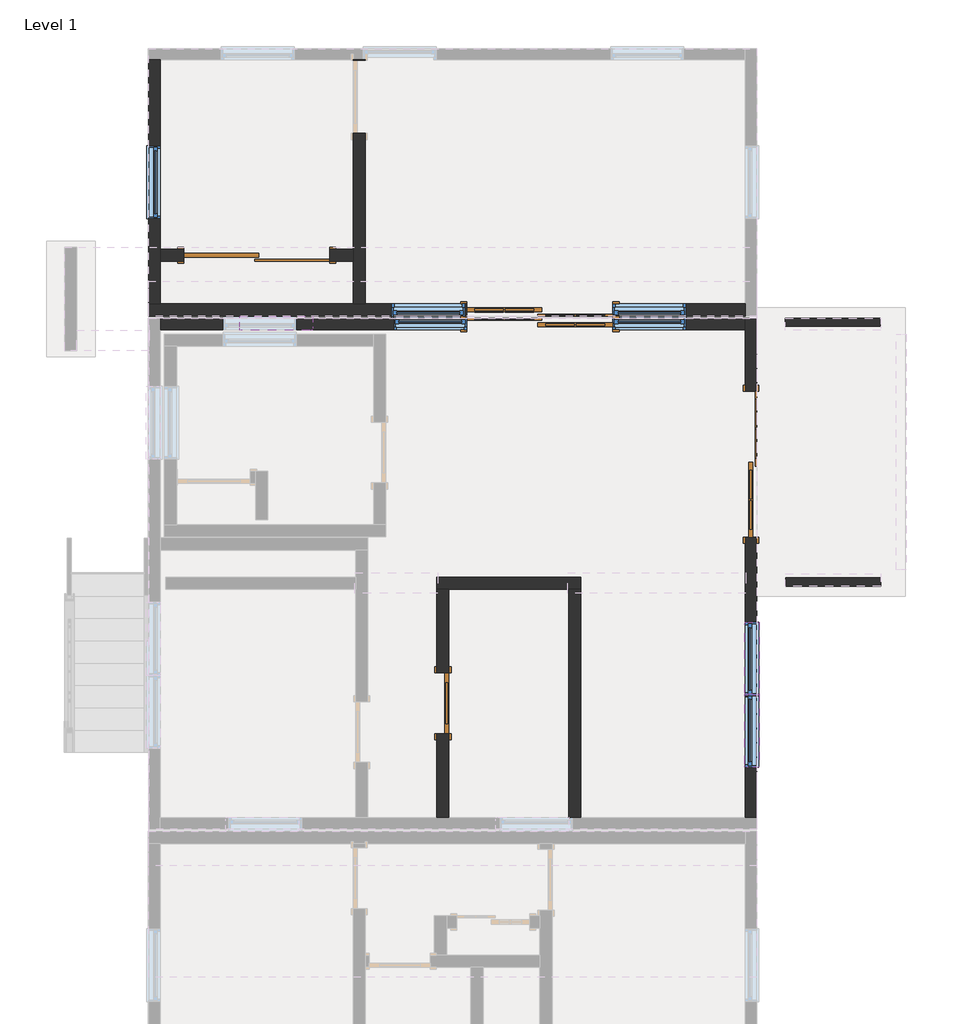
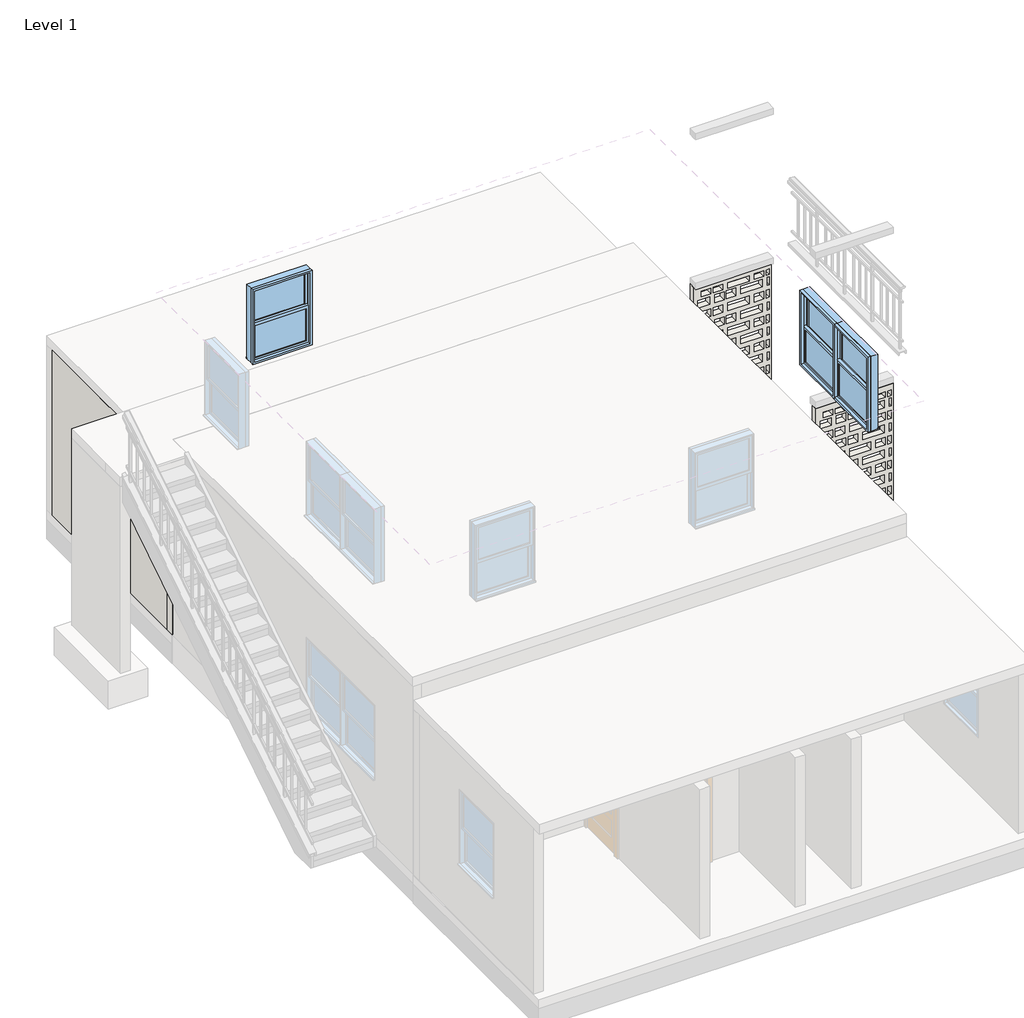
# One storey, part 2 of 3: 11 walls, 10 windows, 5 doors.
"""IFC4 building model written with IfcOpenShell, lengths in millimetres."""

from ifc_helpers import new_model, si_unit, frame, origin, place, context, project, spatial, polyline, outline, extrude, faceted_brep, transform, mapped, element, save
from components import door_de661ade, door_789d9d7f, door_37dff43f, door_f6c94119, window_f4e95f5c, window_0ee86fce, window_d6fe7540, window_2fa36e41, window_8e2a3c93

model = new_model("IFC4")

# Units and contexts
model_context = context("Model", 3, world=origin())
ifc_project = project(units=[si_unit("LENGTHUNIT", "METRE", prefix="MILLI")], contexts=[model_context])

# Site, building, storey
site = spatial("IfcSite", under=ifc_project)
building = spatial("IfcBuilding", under=site)
storey = spatial("IfcBuildingStorey", under=building, Name="Level 1", Elevation=0.0)

# Doors
placement = place(None, origin())
door_shape = door_de661ade(model_context)
element("IfcDoor", 1, ObjectType="Single-Panel 1 : 30\" x 80\"", at=placement, inside=storey, context=model_context, shape_type="MappedRepresentation", body=[
    mapped(door_shape, transform((-7841.5990766, -23581.2138369, -101.6), x_axis=(0.0, -1.0, 0.0), y_axis=(1.0, 0.0, 0.0), z_axis=(0.0, 0.0, 1.0))),
])
door_2_shape = door_789d9d7f(model_context)
element("IfcDoor", 2, ObjectType="Sliding-2 Panel 2 : 72\" x 78\"", at=placement, inside=storey, context=model_context, shape_type="MappedRepresentation", body=[
    mapped(door_2_shape, transform((-10170.7790766, -17845.6431336, -101.6), x_axis=(-1.0, 0.0, 0.0), y_axis=(0.0, -1.0, 0.0), z_axis=(0.0, 0.0, 1.0))),
])
door_3_shape = door_37dff43f(model_context)
element("IfcDoor", 3, ObjectType="Sliding-2 Panel 2 : 72\" x 84\"", at=placement, inside=storey, context=model_context, shape_type="MappedRepresentation", body=[
    mapped(door_3_shape, transform((-4112.8790766, -20588.7763369, -177.8), x_axis=(0.0, -1.0, 0.0), y_axis=(1.0, 0.0, 0.0), z_axis=(0.0, 0.0, 1.0))),
])
element("IfcDoor", 4, ObjectType="Sliding-2 Panel 2 : 72\" x 84\"", at=placement, inside=storey, context=model_context, shape_type="MappedRepresentation", body=[
    mapped(door_3_shape, transform((-6627.4790766, -18963.1763369, -127.0), x_axis=(1.0, 0.0, 0.0), y_axis=(0.0, 1.0, 0.0), z_axis=(0.0, 0.0, 1.0))),
])
door_4_shape = door_f6c94119(model_context)
element("IfcDoor", 5, ObjectType="Sliding-2 Panel 2 : 72\" x 84\"", at=placement, inside=storey, context=model_context, shape_type="MappedRepresentation", body=[
    mapped(door_4_shape, transform((-6627.4790766, -18531.4431336, -127.0), x_axis=(-1.0, 0.0, 0.0), y_axis=(0.0, -1.0, 0.0), z_axis=(0.0, 0.0, 1.0))),
])

# Walls
element("IfcWall", 6, ObjectType="CWXX - 6in CIP Conc", at=placement, inside=storey, context=model_context, shape_type="SweptSolid", body=[
    extrude(outline(polyline([(-6114.399102, -22154.0513369), (-6114.399102, -25013.1388369), (-6266.799102, -25013.1388369), (-6266.799102, -22154.0513369), (-6114.399102, -22154.0513369)])), frame((0.0, 0.0, -101.6), z_axis=(0.0, 0.0, 1.0), x_axis=(1.0, 0.0, 0.0)), (0.0, 0.0, 1.0), 2438.4),
])
element("IfcWall", 7, ObjectType="CWXX - 6in CMU", at=placement, inside=storey, context=model_context, shape_type="Brep", body=[
    faceted_brep([(-7917.7990766, -22154.0513369, -101.6), (-7765.3990766, -22154.0513369, -101.6), (-6266.799102, -22154.0513369, -101.6), (-6114.399102, -22154.0513369, -101.6), (-6114.399102, -22154.0513369, 2336.8), (-6114.399102, -22154.0513369, 2692.4), (-7917.7990766, -22154.0513369, 2692.4), (-7917.7990766, -22154.0513369, 2336.8), (-7917.7990766, -22001.6513369, -101.6), (-7917.7990766, -22001.6513369, 2692.4), (-6114.399102, -22001.6513369, 2692.4), (-6114.399102, -22001.6513369, -101.6)], [[[0, 1, 2, 3, 4, 5, 6, 7]], [[8, 9, 10, 11]], [[3, 2, 1, 0, 8, 11]], [[6, 5, 10, 9]], [[0, 7, 6, 9, 8]], [[5, 4, 3, 11, 10]]]),
])
element("IfcWall", 8, ObjectType="CWXX - 6in CIP Conc", at=placement, inside=storey, context=model_context, shape_type="SweptSolid", body=[
    extrude(outline(polyline([(-23962.2138369, 1930.4), (-23962.2138369, -101.6), (-25013.1388369, -101.6), (-25013.1388369, 2336.8), (-22154.0513369, 2336.8), (-22154.0513369, -101.6), (-23200.2138369, -101.6), (-23200.2138369, 1930.4), (-23962.2138369, 1930.4)])), frame((-7917.7990766, 0.0, 0.0), z_axis=(1.0, 0.0, 0.0), x_axis=(0.0, 1.0, 0.0)), (0.0, 0.0, 1.0), 152.4),
])
element("IfcWall", 9, ObjectType="CWXX - 6in CIP Conc", at=placement, inside=storey, context=model_context, shape_type="Brep", body=[
    faceted_brep([(-8964.2790766, -18582.2431336, 2336.8), (-8964.2790766, -18048.8431336, 2336.8), (-8964.2790766, -17896.4431336, 2336.8), (-8964.2790766, -15529.4806336, 2336.8), (-8964.2790766, -15529.4806336, -101.6), (-8964.2790766, -15534.2431336, -101.6), (-8964.2790766, -15534.2431336, 1930.4), (-8964.2790766, -16448.6431336, 1930.4), (-8964.2790766, -16448.6431336, -101.6), (-8964.2790766, -17896.4431336, -101.6), (-8964.2790766, -18048.8431336, -101.6), (-8964.2790766, -18582.2431336, -101.6), (-8811.8790766, -15529.4806336, 2336.8), (-8811.8790766, -18582.2431336, 2336.8), (-8811.8790766, -18582.2431336, -101.6), (-8811.8790766, -16448.6431336, -101.6), (-8811.8790766, -16448.6431336, 1930.4), (-8811.8790766, -15534.2431336, 1930.4), (-8811.8790766, -15534.2431336, -101.6), (-8811.8790766, -15529.4806336, -101.6), (-8837.2790766, -15529.4806336, -101.6)], [[[0, 1, 2, 3, 4, 5, 6, 7, 8, 9, 10, 11]], [[12, 13, 14, 15, 16, 17, 18, 19]], [[14, 11, 10, 9, 8, 15]], [[4, 20, 19, 18, 5]], [[3, 2, 1, 0, 13, 12]], [[17, 6, 5, 18]], [[6, 17, 16, 7]], [[7, 16, 15, 8]], [[4, 3, 12, 19, 20]], [[11, 14, 13, 0]]]),
])
element("IfcWall", 10, ObjectType="CWXX - 6in CIP Conc", at=placement, inside=storey, context=model_context, shape_type="SweptSolid", body=[
    extrude(outline(polyline([(-101.6, -11382.0415766), (-101.6, -11085.1790766), (2032.0, -11085.1790766), (2032.0, -9256.3790766), (-101.6, -9256.3790766), (-101.6, -8964.2790766), (2336.8, -8964.2790766), (2336.8, -11382.0415766), (-101.6, -11382.0415766)])), frame((0.0, -18048.8431336, 0.0), z_axis=(0.0, 1.0, 0.0), x_axis=(0.0, 0.0, 1.0)), (0.0, 0.0, 1.0), 152.4),
])
element("IfcWall", 11, ObjectType="CWXX - 6in CMU", at=placement, inside=storey, context=model_context, shape_type="Brep", body=[
    faceted_brep([(-11524.9165766, -18582.2431336, 2590.8), (-11382.0415766, -18582.2431336, 2590.8), (-4057.3165766, -18582.2431336, 2590.8), (-4057.3165766, -18582.2431336, -101.6), (-4798.6790766, -18582.2431336, -101.6), (-4798.6790766, -18582.2431336, 2086.6272413), (-5713.0790766, -18582.2431336, 2086.6272413), (-5713.0790766, -18582.2431336, 2082.8), (-7541.8790766, -18582.2431336, 2082.8), (-7541.8790766, -18582.2431336, -101.6), (-7567.2790766, -18582.2431336, -101.6), (-7567.2790766, -18582.2431336, 2079.3110351), (-8481.6790766, -18582.2431336, 2079.3110351), (-8481.6790766, -18582.2431336, -101.6), (-8811.8790766, -18582.2431336, -101.6), (-8964.2790766, -18582.2431336, -101.6), (-11382.0415766, -18582.2431336, -101.6), (-11524.9165766, -18582.2431336, -101.6), (-4057.3165766, -18734.6431336, 2590.8), (-11524.9165766, -18734.6431336, 2590.8), (-11524.9165766, -18734.6431336, -101.6), (-8481.6790766, -18734.6431336, -101.6), (-8481.6790766, -18734.6431336, 2079.3110351), (-7567.2790766, -18734.6431336, 2079.3110351), (-7567.2790766, -18734.6431336, -101.6), (-7541.8790766, -18734.6431336, -101.6), (-7541.8790766, -18734.6431336, 2082.8), (-5713.0790766, -18734.6431336, 2082.8), (-5713.0790766, -18734.6431336, 2086.6272413), (-4798.6790766, -18734.6431336, 2086.6272413), (-4798.6790766, -18734.6431336, -101.6), (-4057.3165766, -18734.6431336, -101.6)], [[[0, 1, 2, 3, 4, 5, 6, 7, 8, 9, 10, 11, 12, 13, 14, 15, 16, 17]], [[18, 19, 20, 21, 22, 23, 24, 25, 26, 27, 28, 29, 30, 31]], [[20, 17, 16, 15, 14, 13, 21]], [[3, 31, 30, 4]], [[9, 25, 24, 10]], [[2, 1, 0, 19, 18]], [[0, 17, 20, 19]], [[31, 3, 2, 18]], [[8, 26, 25, 9]], [[26, 8, 7, 27]], [[6, 28, 27, 7]], [[29, 5, 4, 30]], [[28, 6, 5, 29]], [[12, 22, 21, 13]], [[23, 11, 10, 24]], [[22, 12, 11, 23]]]),
])
element("IfcWall", 12, ObjectType="4\" CMU", at=placement, inside=storey, context=model_context, shape_type="SweptSolid", body=[
    extrude(outline(polyline([(-101.0661623, -3554.0790766), (-101.0661623, -2364.6816639), (2844.8, -2364.6816639), (2844.8, -3554.0790766), (-101.0661623, -3554.0790766)]), holes=[polyline([(2489.2, -2423.7592328), (2616.2, -2423.7592328), (2616.2, -2392.0092328), (2489.2, -2392.0092328), (2489.2, -2423.7592328)]), polyline([(2489.2, -2499.9592328), (2489.2, -2830.1592328), (2616.2, -2830.1592328), (2616.2, -2499.9592328), (2489.2, -2499.9592328)]), polyline([(2489.2, -2906.3592328), (2489.2, -3052.4092328), (2616.2, -3052.4092328), (2616.2, -2906.3592328), (2489.2, -2906.3592328)]), polyline([(2616.2, -3236.5592328), (2616.2, -3090.5092328), (2489.2, -3090.5092328), (2489.2, -3236.5592328), (2616.2, -3236.5592328)]), polyline([(2489.2, -3312.7592328), (2489.2, -3498.8632589), (2616.2, -3498.8632589), (2616.2, -3312.7592328), (2489.2, -3312.7592328)]), polyline([(2286.0, -2442.8092328), (2413.0, -2442.8092328), (2413.0, -2392.0092328), (2286.0, -2392.0092328), (2286.0, -2442.8092328)]), polyline([(2286.0, -2480.9092328), (2286.0, -2626.9592328), (2413.0, -2626.9592328), (2413.0, -2480.9092328), (2286.0, -2480.9092328)]), polyline([(2413.0, -2703.1592328), (2286.0, -2703.1592328), (2286.0, -3033.3592328), (2413.0, -3033.3592328), (2413.0, -2703.1592328)]), polyline([(2286.0, -3109.5592328), (2286.0, -3255.6092328), (2413.0, -3255.6092328), (2413.0, -3109.5592328), (2286.0, -3109.5592328)]), polyline([(2286.0, -3293.7092328), (2286.0, -3439.7592328), (2413.0, -3439.7592328), (2413.0, -3293.7092328), (2286.0, -3293.7092328)]), polyline([(2082.8, -2423.7592328), (2209.8, -2423.7592328), (2209.8, -2392.0092328), (2082.8, -2392.0092328), (2082.8, -2423.7592328)]), polyline([(2082.8, -2499.9592328), (2082.8, -2830.1592328), (2209.8, -2830.1592328), (2209.8, -2499.9592328), (2082.8, -2499.9592328)]), polyline([(2082.8, -2906.3592328), (2082.8, -3052.4092328), (2209.8, -3052.4092328), (2209.8, -2906.3592328), (2082.8, -2906.3592328)]), polyline([(2209.8, -3236.5592328), (2209.8, -3090.5092328), (2082.8, -3090.5092328), (2082.8, -3236.5592328), (2209.8, -3236.5592328)]), polyline([(2082.8, -3312.7592328), (2082.8, -3498.8632589), (2209.8, -3498.8632589), (2209.8, -3312.7592328), (2082.8, -3312.7592328)]), polyline([(1879.6, -2442.8092328), (2006.6, -2442.8092328), (2006.6, -2392.0092328), (1879.6, -2392.0092328), (1879.6, -2442.8092328)]), polyline([(1879.6, -2480.9092328), (1879.6, -2626.9592328), (2006.6, -2626.9592328), (2006.6, -2480.9092328), (1879.6, -2480.9092328)]), polyline([(2006.6, -2703.1592328), (1879.6, -2703.1592328), (1879.6, -3033.3592328), (2006.6, -3033.3592328), (2006.6, -2703.1592328)]), polyline([(1879.6, -3109.5592328), (1879.6, -3255.6092328), (2006.6, -3255.6092328), (2006.6, -3109.5592328), (1879.6, -3109.5592328)]), polyline([(1879.6, -3293.7092328), (1879.6, -3439.7592328), (2006.6, -3439.7592328), (2006.6, -3293.7092328), (1879.6, -3293.7092328)]), polyline([(1676.4, -2423.7592328), (1803.4, -2423.7592328), (1803.4, -2392.0092328), (1676.4, -2392.0092328), (1676.4, -2423.7592328)]), polyline([(1676.4, -2499.9592328), (1676.4, -2830.1592328), (1803.4, -2830.1592328), (1803.4, -2499.9592328), (1676.4, -2499.9592328)]), polyline([(1676.4, -2906.3592328), (1676.4, -3052.4092328), (1803.4, -3052.4092328), (1803.4, -2906.3592328), (1676.4, -2906.3592328)]), polyline([(1803.4, -3236.5592328), (1803.4, -3090.5092328), (1676.4, -3090.5092328), (1676.4, -3236.5592328), (1803.4, -3236.5592328)]), polyline([(1676.4, -3312.7592328), (1676.4, -3498.8632589), (1803.4, -3498.8632589), (1803.4, -3312.7592328), (1676.4, -3312.7592328)]), polyline([(1473.2, -2442.8092328), (1600.2, -2442.8092328), (1600.2, -2392.0092328), (1473.2, -2392.0092328), (1473.2, -2442.8092328)]), polyline([(1473.2, -2480.9092328), (1473.2, -2626.9592328), (1600.2, -2626.9592328), (1600.2, -2480.9092328), (1473.2, -2480.9092328)]), polyline([(1600.2, -2703.1592328), (1473.2, -2703.1592328), (1473.2, -3033.3592328), (1600.2, -3033.3592328), (1600.2, -2703.1592328)]), polyline([(1473.2, -3109.5592328), (1473.2, -3255.6092328), (1600.2, -3255.6092328), (1600.2, -3109.5592328), (1473.2, -3109.5592328)]), polyline([(1473.2, -3293.7092328), (1473.2, -3439.7592328), (1600.2, -3439.7592328), (1600.2, -3293.7092328), (1473.2, -3293.7092328)]), polyline([(1270.0, -2423.7592328), (1397.0, -2423.7592328), (1397.0, -2392.0092328), (1270.0, -2392.0092328), (1270.0, -2423.7592328)]), polyline([(1270.0, -2499.9592328), (1270.0, -2830.1592328), (1397.0, -2830.1592328), (1397.0, -2499.9592328), (1270.0, -2499.9592328)]), polyline([(1270.0, -2906.3592328), (1270.0, -3052.4092328), (1397.0, -3052.4092328), (1397.0, -2906.3592328), (1270.0, -2906.3592328)]), polyline([(1397.0, -3236.5592328), (1397.0, -3090.5092328), (1270.0, -3090.5092328), (1270.0, -3236.5592328), (1397.0, -3236.5592328)]), polyline([(1270.0, -3312.7592328), (1270.0, -3498.8632589), (1397.0, -3498.8632589), (1397.0, -3312.7592328), (1270.0, -3312.7592328)]), polyline([(1054.1, -2442.8092328), (1181.1, -2442.8092328), (1181.1, -2392.0092328), (1054.1, -2392.0092328), (1054.1, -2442.8092328)]), polyline([(1054.1, -2480.9092328), (1054.1, -2626.9592328), (1181.1, -2626.9592328), (1181.1, -2480.9092328), (1054.1, -2480.9092328)]), polyline([(1181.1, -2703.1592328), (1054.1, -2703.1592328), (1054.1, -3033.3592328), (1181.1, -3033.3592328), (1181.1, -2703.1592328)]), polyline([(1054.1, -3109.5592328), (1054.1, -3255.6092328), (1181.1, -3255.6092328), (1181.1, -3109.5592328), (1054.1, -3109.5592328)]), polyline([(1054.1, -3293.7092328), (1054.1, -3439.7592328), (1181.1, -3439.7592328), (1181.1, -3293.7092328), (1054.1, -3293.7092328)]), polyline([(850.9, -2423.7592328), (977.9, -2423.7592328), (977.9, -2392.0092328), (850.9, -2392.0092328), (850.9, -2423.7592328)]), polyline([(850.9, -2499.9592328), (850.9, -2830.1592328), (977.9, -2830.1592328), (977.9, -2499.9592328), (850.9, -2499.9592328)]), polyline([(850.9, -2906.3592328), (850.9, -3052.4092328), (977.9, -3052.4092328), (977.9, -2906.3592328), (850.9, -2906.3592328)]), polyline([(977.9, -3236.5592328), (977.9, -3090.5092328), (850.9, -3090.5092328), (850.9, -3236.5592328), (977.9, -3236.5592328)]), polyline([(850.9, -3312.7592328), (850.9, -3498.8632589), (977.9, -3498.8632589), (977.9, -3312.7592328), (850.9, -3312.7592328)]), polyline([(647.7, -2442.8092328), (774.7, -2442.8092328), (774.7, -2392.0092328), (647.7, -2392.0092328), (647.7, -2442.8092328)]), polyline([(647.7, -2480.9092328), (647.7, -2626.9592328), (774.7, -2626.9592328), (774.7, -2480.9092328), (647.7, -2480.9092328)]), polyline([(774.7, -2703.1592328), (647.7, -2703.1592328), (647.7, -3033.3592328), (774.7, -3033.3592328), (774.7, -2703.1592328)]), polyline([(647.7, -3109.5592328), (647.7, -3255.6092328), (774.7, -3255.6092328), (774.7, -3109.5592328), (647.7, -3109.5592328)]), polyline([(647.7, -3293.7092328), (647.7, -3439.7592328), (774.7, -3439.7592328), (774.7, -3293.7092328), (647.7, -3293.7092328)]), polyline([(444.5, -2423.7592328), (571.5, -2423.7592328), (571.5, -2392.0092328), (444.5, -2392.0092328), (444.5, -2423.7592328)]), polyline([(444.5, -2499.9592328), (444.5, -2830.1592328), (571.5, -2830.1592328), (571.5, -2499.9592328), (444.5, -2499.9592328)]), polyline([(444.5, -2906.3592328), (444.5, -3052.4092328), (571.5, -3052.4092328), (571.5, -2906.3592328), (444.5, -2906.3592328)]), polyline([(571.5, -3236.5592328), (571.5, -3090.5092328), (444.5, -3090.5092328), (444.5, -3236.5592328), (571.5, -3236.5592328)]), polyline([(444.5, -3312.7592328), (444.5, -3498.8632589), (571.5, -3498.8632589), (571.5, -3312.7592328), (444.5, -3312.7592328)]), polyline([(241.3, -2442.8092328), (368.3, -2442.8092328), (368.3, -2392.0092328), (241.3, -2392.0092328), (241.3, -2442.8092328)]), polyline([(241.3, -2480.9092328), (241.3, -2626.9592328), (368.3, -2626.9592328), (368.3, -2480.9092328), (241.3, -2480.9092328)]), polyline([(368.3, -2703.1592328), (241.3, -2703.1592328), (241.3, -3033.3592328), (368.3, -3033.3592328), (368.3, -2703.1592328)]), polyline([(241.3, -3109.5592328), (241.3, -3255.6092328), (368.3, -3255.6092328), (368.3, -3109.5592328), (241.3, -3109.5592328)]), polyline([(241.3, -3293.7092328), (241.3, -3439.7592328), (368.3, -3439.7592328), (368.3, -3293.7092328), (241.3, -3293.7092328)]), polyline([(38.1, -2423.7592328), (165.1, -2423.7592328), (165.1, -2392.0092328), (38.1, -2392.0092328), (38.1, -2423.7592328)]), polyline([(38.1, -2499.9592328), (38.1, -2830.1592328), (165.1, -2830.1592328), (165.1, -2499.9592328), (38.1, -2499.9592328)]), polyline([(38.1, -2906.3592328), (38.1, -3052.4092328), (165.1, -3052.4092328), (165.1, -2906.3592328), (38.1, -2906.3592328)]), polyline([(165.1, -3236.5592328), (165.1, -3090.5092328), (38.1, -3090.5092328), (38.1, -3236.5592328), (165.1, -3236.5592328)]), polyline([(38.1, -3312.7592328), (38.1, -3498.8632589), (165.1, -3498.8632589), (165.1, -3312.7592328), (38.1, -3312.7592328)]), polyline([(-76.2, -2442.8092328), (-38.1, -2442.8092328), (-38.1, -2392.0092328), (-76.2, -2392.0092328), (-76.2, -2442.8092328)]), polyline([(-76.2, -2480.9092328), (-76.2, -2626.9592328), (-38.1, -2626.9592328), (-38.1, -2480.9092328), (-76.2, -2480.9092328)]), polyline([(-38.1, -2703.1592328), (-76.2, -2703.1592328), (-76.2, -3033.3592328), (-38.1, -3033.3592328), (-38.1, -2703.1592328)]), polyline([(-76.2, -3109.5592328), (-76.2, -3255.6092328), (-38.1, -3255.6092328), (-38.1, -3109.5592328), (-76.2, -3109.5592328)]), polyline([(-76.2, -3293.7092328), (-76.2, -3439.7592328), (-38.1, -3439.7592328), (-38.1, -3293.7092328), (-76.2, -3293.7092328)]), polyline([(2654.3, -2442.8092328), (2743.2, -2442.8092328), (2743.2, -2392.0092328), (2654.3, -2392.0092328), (2654.3, -2442.8092328)]), polyline([(2654.3, -2480.9092328), (2654.3, -2626.9592328), (2743.2, -2626.9592328), (2743.2, -2480.9092328), (2654.3, -2480.9092328)]), polyline([(2654.3, -2703.1592328), (2654.3, -3033.3592328), (2743.2, -3033.3592328), (2743.2, -2703.1592328), (2654.3, -2703.1592328)]), polyline([(2654.3, -3109.5592328), (2654.3, -3255.6092328), (2743.2, -3255.6092328), (2743.2, -3109.5592328), (2654.3, -3109.5592328)]), polyline([(2654.3, -3293.7092328), (2654.3, -3439.7592328), (2743.2, -3439.7592328), (2743.2, -3293.7092328), (2654.3, -3293.7092328)])]), frame((0.0, -18861.5763369, 0.0), z_axis=(0.0, 1.0, 0.0), x_axis=(0.0, 0.0, 1.0)), (0.0, 0.0, 1.0), 101.6),
])
element("IfcWall", 13, ObjectType="4\" CMU", at=placement, inside=storey, context=model_context, shape_type="SweptSolid", body=[
    extrude(outline(polyline([(-101.0661623, -3550.5554736), (-101.0661623, -2362.0796936), (2844.8, -2362.0796936), (2844.8, -3550.5554736), (-101.0661623, -3550.5554736)]), holes=[polyline([(2489.2, -2423.7592328), (2616.2, -2423.7592328), (2616.2, -2392.0092328), (2489.2, -2392.0092328), (2489.2, -2423.7592328)]), polyline([(2489.2, -2499.9592328), (2489.2, -2830.1592328), (2616.2, -2830.1592328), (2616.2, -2499.9592328), (2489.2, -2499.9592328)]), polyline([(2489.2, -2906.3592328), (2489.2, -3052.4092328), (2616.2, -3052.4092328), (2616.2, -2906.3592328), (2489.2, -2906.3592328)]), polyline([(2616.2, -3236.5592328), (2616.2, -3090.5092328), (2489.2, -3090.5092328), (2489.2, -3236.5592328), (2616.2, -3236.5592328)]), polyline([(2489.2, -3312.7592328), (2489.2, -3481.2748419), (2616.2, -3481.2748419), (2616.2, -3312.7592328), (2489.2, -3312.7592328)]), polyline([(2286.0, -2442.8092328), (2413.0, -2442.8092328), (2413.0, -2392.0092328), (2286.0, -2392.0092328), (2286.0, -2442.8092328)]), polyline([(2286.0, -2480.9092328), (2286.0, -2626.9592328), (2413.0, -2626.9592328), (2413.0, -2480.9092328), (2286.0, -2480.9092328)]), polyline([(2413.0, -2703.1592328), (2286.0, -2703.1592328), (2286.0, -3033.3592328), (2413.0, -3033.3592328), (2413.0, -2703.1592328)]), polyline([(2286.0, -3109.5592328), (2286.0, -3255.6092328), (2413.0, -3255.6092328), (2413.0, -3109.5592328), (2286.0, -3109.5592328)]), polyline([(2286.0, -3293.7092328), (2286.0, -3439.7592328), (2413.0, -3439.7592328), (2413.0, -3293.7092328), (2286.0, -3293.7092328)]), polyline([(2082.8, -2423.7592328), (2209.8, -2423.7592328), (2209.8, -2392.0092328), (2082.8, -2392.0092328), (2082.8, -2423.7592328)]), polyline([(2082.8, -2499.9592328), (2082.8, -2830.1592328), (2209.8, -2830.1592328), (2209.8, -2499.9592328), (2082.8, -2499.9592328)]), polyline([(2082.8, -2906.3592328), (2082.8, -3052.4092328), (2209.8, -3052.4092328), (2209.8, -2906.3592328), (2082.8, -2906.3592328)]), polyline([(2209.8, -3236.5592328), (2209.8, -3090.5092328), (2082.8, -3090.5092328), (2082.8, -3236.5592328), (2209.8, -3236.5592328)]), polyline([(2082.8, -3312.7592328), (2082.8, -3481.2748419), (2209.8, -3481.2748419), (2209.8, -3312.7592328), (2082.8, -3312.7592328)]), polyline([(1879.6, -2442.8092328), (2006.6, -2442.8092328), (2006.6, -2392.0092328), (1879.6, -2392.0092328), (1879.6, -2442.8092328)]), polyline([(1879.6, -2480.9092328), (1879.6, -2626.9592328), (2006.6, -2626.9592328), (2006.6, -2480.9092328), (1879.6, -2480.9092328)]), polyline([(2006.6, -2703.1592328), (1879.6, -2703.1592328), (1879.6, -3033.3592328), (2006.6, -3033.3592328), (2006.6, -2703.1592328)]), polyline([(1879.6, -3109.5592328), (1879.6, -3255.6092328), (2006.6, -3255.6092328), (2006.6, -3109.5592328), (1879.6, -3109.5592328)]), polyline([(1879.6, -3293.7092328), (1879.6, -3439.7592328), (2006.6, -3439.7592328), (2006.6, -3293.7092328), (1879.6, -3293.7092328)]), polyline([(1676.4, -2423.7592328), (1803.4, -2423.7592328), (1803.4, -2392.0092328), (1676.4, -2392.0092328), (1676.4, -2423.7592328)]), polyline([(1676.4, -2499.9592328), (1676.4, -2830.1592328), (1803.4, -2830.1592328), (1803.4, -2499.9592328), (1676.4, -2499.9592328)]), polyline([(1676.4, -2906.3592328), (1676.4, -3052.4092328), (1803.4, -3052.4092328), (1803.4, -2906.3592328), (1676.4, -2906.3592328)]), polyline([(1803.4, -3236.5592328), (1803.4, -3090.5092328), (1676.4, -3090.5092328), (1676.4, -3236.5592328), (1803.4, -3236.5592328)]), polyline([(1676.4, -3312.7592328), (1676.4, -3481.2748419), (1803.4, -3481.2748419), (1803.4, -3312.7592328), (1676.4, -3312.7592328)]), polyline([(1473.2, -2442.8092328), (1600.2, -2442.8092328), (1600.2, -2392.0092328), (1473.2, -2392.0092328), (1473.2, -2442.8092328)]), polyline([(1473.2, -2480.9092328), (1473.2, -2626.9592328), (1600.2, -2626.9592328), (1600.2, -2480.9092328), (1473.2, -2480.9092328)]), polyline([(1600.2, -2703.1592328), (1473.2, -2703.1592328), (1473.2, -3033.3592328), (1600.2, -3033.3592328), (1600.2, -2703.1592328)]), polyline([(1473.2, -3109.5592328), (1473.2, -3255.6092328), (1600.2, -3255.6092328), (1600.2, -3109.5592328), (1473.2, -3109.5592328)]), polyline([(1473.2, -3293.7092328), (1473.2, -3439.7592328), (1600.2, -3439.7592328), (1600.2, -3293.7092328), (1473.2, -3293.7092328)]), polyline([(1270.0, -2423.7592328), (1397.0, -2423.7592328), (1397.0, -2392.0092328), (1270.0, -2392.0092328), (1270.0, -2423.7592328)]), polyline([(1270.0, -2499.9592328), (1270.0, -2830.1592328), (1397.0, -2830.1592328), (1397.0, -2499.9592328), (1270.0, -2499.9592328)]), polyline([(1270.0, -2906.3592328), (1270.0, -3052.4092328), (1397.0, -3052.4092328), (1397.0, -2906.3592328), (1270.0, -2906.3592328)]), polyline([(1397.0, -3236.5592328), (1397.0, -3090.5092328), (1270.0, -3090.5092328), (1270.0, -3236.5592328), (1397.0, -3236.5592328)]), polyline([(1270.0, -3312.7592328), (1270.0, -3481.2748419), (1397.0, -3481.2748419), (1397.0, -3312.7592328), (1270.0, -3312.7592328)]), polyline([(1054.1, -2442.8092328), (1181.1, -2442.8092328), (1181.1, -2392.0092328), (1054.1, -2392.0092328), (1054.1, -2442.8092328)]), polyline([(1054.1, -2480.9092328), (1054.1, -2626.9592328), (1181.1, -2626.9592328), (1181.1, -2480.9092328), (1054.1, -2480.9092328)]), polyline([(1181.1, -2703.1592328), (1054.1, -2703.1592328), (1054.1, -3033.3592328), (1181.1, -3033.3592328), (1181.1, -2703.1592328)]), polyline([(1054.1, -3109.5592328), (1054.1, -3255.6092328), (1181.1, -3255.6092328), (1181.1, -3109.5592328), (1054.1, -3109.5592328)]), polyline([(1054.1, -3293.7092328), (1054.1, -3439.7592328), (1181.1, -3439.7592328), (1181.1, -3293.7092328), (1054.1, -3293.7092328)]), polyline([(850.9, -2423.7592328), (977.9, -2423.7592328), (977.9, -2392.0092328), (850.9, -2392.0092328), (850.9, -2423.7592328)]), polyline([(850.9, -2499.9592328), (850.9, -2830.1592328), (977.9, -2830.1592328), (977.9, -2499.9592328), (850.9, -2499.9592328)]), polyline([(850.9, -2906.3592328), (850.9, -3052.4092328), (977.9, -3052.4092328), (977.9, -2906.3592328), (850.9, -2906.3592328)]), polyline([(977.9, -3236.5592328), (977.9, -3090.5092328), (850.9, -3090.5092328), (850.9, -3236.5592328), (977.9, -3236.5592328)]), polyline([(850.9, -3312.7592328), (850.9, -3481.2748419), (977.9, -3481.2748419), (977.9, -3312.7592328), (850.9, -3312.7592328)]), polyline([(647.7, -2442.8092328), (774.7, -2442.8092328), (774.7, -2392.0092328), (647.7, -2392.0092328), (647.7, -2442.8092328)]), polyline([(647.7, -2480.9092328), (647.7, -2626.9592328), (774.7, -2626.9592328), (774.7, -2480.9092328), (647.7, -2480.9092328)]), polyline([(774.7, -2703.1592328), (647.7, -2703.1592328), (647.7, -3033.3592328), (774.7, -3033.3592328), (774.7, -2703.1592328)]), polyline([(647.7, -3109.5592328), (647.7, -3255.6092328), (774.7, -3255.6092328), (774.7, -3109.5592328), (647.7, -3109.5592328)]), polyline([(647.7, -3293.7092328), (647.7, -3439.7592328), (774.7, -3439.7592328), (774.7, -3293.7092328), (647.7, -3293.7092328)]), polyline([(444.5, -2423.7592328), (571.5, -2423.7592328), (571.5, -2392.0092328), (444.5, -2392.0092328), (444.5, -2423.7592328)]), polyline([(444.5, -2499.9592328), (444.5, -2830.1592328), (571.5, -2830.1592328), (571.5, -2499.9592328), (444.5, -2499.9592328)]), polyline([(444.5, -2906.3592328), (444.5, -3052.4092328), (571.5, -3052.4092328), (571.5, -2906.3592328), (444.5, -2906.3592328)]), polyline([(571.5, -3236.5592328), (571.5, -3090.5092328), (444.5, -3090.5092328), (444.5, -3236.5592328), (571.5, -3236.5592328)]), polyline([(444.5, -3312.7592328), (444.5, -3481.2748419), (571.5, -3481.2748419), (571.5, -3312.7592328), (444.5, -3312.7592328)]), polyline([(241.3, -2442.8092328), (368.3, -2442.8092328), (368.3, -2392.0092328), (241.3, -2392.0092328), (241.3, -2442.8092328)]), polyline([(241.3, -2480.9092328), (241.3, -2626.9592328), (368.3, -2626.9592328), (368.3, -2480.9092328), (241.3, -2480.9092328)]), polyline([(368.3, -2703.1592328), (241.3, -2703.1592328), (241.3, -3033.3592328), (368.3, -3033.3592328), (368.3, -2703.1592328)]), polyline([(241.3, -3109.5592328), (241.3, -3255.6092328), (368.3, -3255.6092328), (368.3, -3109.5592328), (241.3, -3109.5592328)]), polyline([(241.3, -3293.7092328), (241.3, -3439.7592328), (368.3, -3439.7592328), (368.3, -3293.7092328), (241.3, -3293.7092328)]), polyline([(38.1, -2423.7592328), (165.1, -2423.7592328), (165.1, -2392.0092328), (38.1, -2392.0092328), (38.1, -2423.7592328)]), polyline([(38.1, -2499.9592328), (38.1, -2830.1592328), (165.1, -2830.1592328), (165.1, -2499.9592328), (38.1, -2499.9592328)]), polyline([(38.1, -2906.3592328), (38.1, -3052.4092328), (165.1, -3052.4092328), (165.1, -2906.3592328), (38.1, -2906.3592328)]), polyline([(165.1, -3236.5592328), (165.1, -3090.5092328), (38.1, -3090.5092328), (38.1, -3236.5592328), (165.1, -3236.5592328)]), polyline([(38.1, -3312.7592328), (38.1, -3481.2748419), (165.1, -3481.2748419), (165.1, -3312.7592328), (38.1, -3312.7592328)]), polyline([(-76.2, -2442.8092328), (-38.1, -2442.8092328), (-38.1, -2392.0092328), (-76.2, -2392.0092328), (-76.2, -2442.8092328)]), polyline([(-76.2, -2480.9092328), (-76.2, -2626.9592328), (-38.1, -2626.9592328), (-38.1, -2480.9092328), (-76.2, -2480.9092328)]), polyline([(-38.1, -2703.1592328), (-76.2, -2703.1592328), (-76.2, -3033.3592328), (-38.1, -3033.3592328), (-38.1, -2703.1592328)]), polyline([(-76.2, -3109.5592328), (-76.2, -3255.6092328), (-38.1, -3255.6092328), (-38.1, -3109.5592328), (-76.2, -3109.5592328)]), polyline([(-76.2, -3293.7092328), (-76.2, -3439.7592328), (-38.1, -3439.7592328), (-38.1, -3293.7092328), (-76.2, -3293.7092328)]), polyline([(2654.3, -2442.8092328), (2743.2, -2442.8092328), (2743.2, -2392.0092328), (2654.3, -2392.0092328), (2654.3, -2442.8092328)]), polyline([(2654.3, -2480.9092328), (2654.3, -2626.9592328), (2743.2, -2626.9592328), (2743.2, -2480.9092328), (2654.3, -2480.9092328)]), polyline([(2654.3, -2703.1592328), (2654.3, -3033.3592328), (2743.2, -3033.3592328), (2743.2, -2703.1592328), (2654.3, -2703.1592328)]), polyline([(2654.3, -3109.5592328), (2654.3, -3255.6092328), (2743.2, -3255.6092328), (2743.2, -3109.5592328), (2654.3, -3109.5592328)]), polyline([(2654.3, -3293.7092328), (2654.3, -3439.7592328), (2743.2, -3439.7592328), (2743.2, -3293.7092328), (2654.3, -3293.7092328)])]), frame((0.0, -22114.3634775, 0.0), z_axis=(0.0, 1.0, 0.0), x_axis=(0.0, 0.0, 1.0)), (0.0, 0.0, 1.0), 101.6),
])
element("IfcWall", 14, ObjectType="6\" CMU", at=placement, inside=storey, context=model_context, shape_type="Brep", body=[
    faceted_brep([(-11382.0415766, -18582.2431336, -101.6), (-11382.0415766, -18048.8431336, -101.6), (-11382.0415766, -17896.4431336, -101.6), (-11382.0415766, -15529.4806336, -101.6), (-11382.0415766, -15529.4806336, 2590.8), (-11382.0415766, -18582.2431336, 2590.8), (-11382.0415766, -17515.4431336, 2032.0), (-11382.0415766, -16601.0431336, 2032.0), (-11382.0415766, -16601.0431336, 812.8), (-11382.0415766, -17515.4431336, 812.8), (-11524.9165766, -18582.2431336, -101.6), (-11524.9165766, -18582.2431336, 2590.8), (-11524.9165766, -15529.4806336, 2590.8), (-11524.9165766, -15529.4806336, -101.6), (-11524.9165766, -17515.4431336, 2032.0), (-11524.9165766, -17515.4431336, 812.8), (-11524.9165766, -16601.0431336, 812.8), (-11524.9165766, -16601.0431336, 2032.0)], [[[0, 1, 2, 3, 4, 5], [6, 7, 8, 9]], [[10, 11, 12, 13], [14, 15, 16, 17]], [[3, 2, 1, 0, 10, 13]], [[5, 4, 12, 11]], [[4, 3, 13, 12]], [[0, 5, 11, 10]], [[15, 14, 6, 9]], [[16, 15, 9, 8]], [[17, 16, 8, 7]], [[14, 17, 7, 6]]]),
])
element("IfcWall", 15, ObjectType="6\" CMU", at=placement, inside=storey, context=model_context, shape_type="Brep", body=[
    faceted_brep([(-4057.3165766, -25013.1388369, 2946.4), (-4057.3165766, -18907.6138369, 2946.4), (-4057.3165766, -18764.7388369, 2946.4), (-4057.3165766, -18764.7388369, -101.6), (-4057.3165766, -18907.6138369, -101.6), (-4057.3165766, -19674.3763369, -101.6), (-4057.3165766, -19674.3763369, 2032.0), (-4057.3165766, -21503.1763369, 2032.0), (-4057.3165766, -21503.1763369, -101.6), (-4057.3165766, -25013.1388369, -101.6), (-4057.3165766, -24379.7263369, 812.8), (-4057.3165766, -22569.9763369, 812.8), (-4057.3165766, -22569.9763369, 2032.0), (-4057.3165766, -24379.7263369, 2032.0), (-3914.4415766, -18764.7388369, 2946.4), (-3914.4415766, -25013.1388369, 2946.4), (-3914.4415766, -25013.1388369, -101.6), (-3914.4415766, -21503.1763369, -101.6), (-3914.4415766, -21503.1763369, 2032.0), (-3914.4415766, -19674.3763369, 2032.0), (-3914.4415766, -19674.3763369, -101.6), (-3914.4415766, -18764.7388369, -101.6), (-3914.4415766, -24379.7263369, 2032.0), (-3914.4415766, -22569.9763369, 2032.0), (-3914.4415766, -22569.9763369, 812.8), (-3914.4415766, -24379.7263369, 812.8)], [[[0, 1, 2, 3, 4, 5, 6, 7, 8, 9], [10, 11, 12, 13]], [[14, 15, 16, 17, 18, 19, 20, 21], [22, 23, 24, 25]], [[0, 9, 16, 15]], [[19, 6, 5, 20]], [[7, 18, 17, 8]], [[6, 19, 18, 7]], [[24, 11, 10, 25]], [[11, 24, 23, 12]], [[12, 23, 22, 13]], [[13, 22, 25, 10]], [[21, 20, 5, 4, 3]], [[9, 8, 17, 16]], [[2, 1, 0, 15, 14]], [[2, 14, 21, 3]]]),
])
element("IfcWall", 16, ObjectType="6\" CMU", at=placement, inside=storey, context=model_context, shape_type="SweptSolid", body=[
    extrude(outline(polyline([(2946.4, -4057.3165766), (2946.4, -11382.0415766), (-101.6, -11382.0415766), (-101.6, -8456.2790766), (2082.8, -8456.2790766), (2082.8, -4798.6790766), (-101.6, -4798.6790766), (-101.6, -4057.3165766), (2946.4, -4057.3165766)]), holes=[polyline([(1965.5500159, -9676.4950766), (746.3500159, -9676.4950766), (746.3500159, -10590.8950766), (1965.5500159, -10590.8950766), (1965.5500159, -9676.4950766)])]), frame((0.0, -18907.6138369, 0.0), z_axis=(0.0, 1.0, 0.0), x_axis=(0.0, 0.0, 1.0)), (0.0, 0.0, 1.0), 142.875),
])

# Windows
window_shape = window_f4e95f5c(model_context)
element("IfcWindow", 17, ObjectType="Double Hung : 36\" x 48\"", at=placement, inside=storey, context=model_context, shape_type="MappedRepresentation", body=[
    mapped(window_shape, transform((-3985.8790766, -23027.1763369, -101.6), x_axis=(0.0, -1.0, 0.0), y_axis=(1.0, 0.0, 0.0), z_axis=(0.0, 0.0, 1.0))),
])
element("IfcWindow", 18, ObjectType="Double Hung : 36\" x 48\"", at=placement, inside=storey, context=model_context, shape_type="MappedRepresentation", body=[
    mapped(window_shape, transform((-3985.8790766, -23922.5263369, -101.6), x_axis=(0.0, -1.0, 0.0), y_axis=(1.0, 0.0, 0.0), z_axis=(0.0, 0.0, 1.0))),
])
window_2_shape = window_0ee86fce(model_context)
element("IfcWindow", 19, ObjectType="Double Hung : 36\" x 48\"", at=placement, inside=storey, context=model_context, shape_type="MappedRepresentation", body=[
    mapped(window_2_shape, transform((-11453.4790766, -17058.2431336, -101.6), x_axis=(0.0, -1.0, 0.0), y_axis=(1.0, 0.0, 0.0), z_axis=(0.0, 0.0, 1.0))),
])
window_3_shape = window_d6fe7540(model_context)
element("IfcWindow", 20, ObjectType="Double Hung : 36\" x 48\"", at=placement, inside=storey, context=model_context, shape_type="MappedRepresentation", body=[
    mapped(window_3_shape, transform((-3985.8790766, -23027.1763369, 3098.8), x_axis=(0.0, -1.0, 0.0), y_axis=(1.0, 0.0, 0.0), z_axis=(0.0, 0.0, 1.0))),
])
element("IfcWindow", 21, ObjectType="Double Hung : 36\" x 48\"", at=placement, inside=storey, context=model_context, shape_type="MappedRepresentation", body=[
    mapped(window_3_shape, transform((-3985.8790766, -23922.5263369, 3098.8), x_axis=(0.0, -1.0, 0.0), y_axis=(1.0, 0.0, 0.0), z_axis=(0.0, 0.0, 1.0))),
])
element("IfcWindow", 22, ObjectType="Double Hung : 36\" x 48\"", at=placement, inside=storey, context=model_context, shape_type="MappedRepresentation", body=[
    mapped(window_3_shape, transform((-9929.4790766, -18836.1763369, 3098.8), x_axis=(1.0, 0.0, 0.0), y_axis=(0.0, 1.0, 0.0), z_axis=(0.0, 0.0, 1.0))),
])
window_4_shape = window_2fa36e41(model_context)
element("IfcWindow", 23, ObjectType="Double Hung : 36\" x 72\"", at=placement, inside=storey, context=model_context, shape_type="MappedRepresentation", body=[
    mapped(window_4_shape, transform((-5255.8790766, -18836.1763369, -431.8), x_axis=(1.0, 0.0, 0.0), y_axis=(0.0, 1.0, 0.0), z_axis=(0.0, 0.0, 1.0))),
])
element("IfcWindow", 24, ObjectType="Double Hung : 36\" x 72\"", at=placement, inside=storey, context=model_context, shape_type="MappedRepresentation", body=[
    mapped(window_4_shape, transform((-7999.0790766, -18836.1763369, -431.8), x_axis=(1.0, 0.0, 0.0), y_axis=(0.0, 1.0, 0.0), z_axis=(0.0, 0.0, 1.0))),
])
window_5_shape = window_8e2a3c93(model_context)
element("IfcWindow", 25, ObjectType="Double Hung : 36\" x 72\"", at=placement, inside=storey, context=model_context, shape_type="MappedRepresentation", body=[
    mapped(window_5_shape, transform((-5255.8790766, -18658.4431336, -427.9727587), x_axis=(-1.0, 0.0, 0.0), y_axis=(0.0, -1.0, 0.0), z_axis=(0.0, 0.0, 1.0))),
])
element("IfcWindow", 26, ObjectType="Double Hung : 36\" x 72\"", at=placement, inside=storey, context=model_context, shape_type="MappedRepresentation", body=[
    mapped(window_5_shape, transform((-8024.4790766, -18658.4431336, -435.2889649), x_axis=(-1.0, 0.0, 0.0), y_axis=(0.0, -1.0, 0.0), z_axis=(0.0, 0.0, 1.0))),
])

save(model, "model.ifc")
